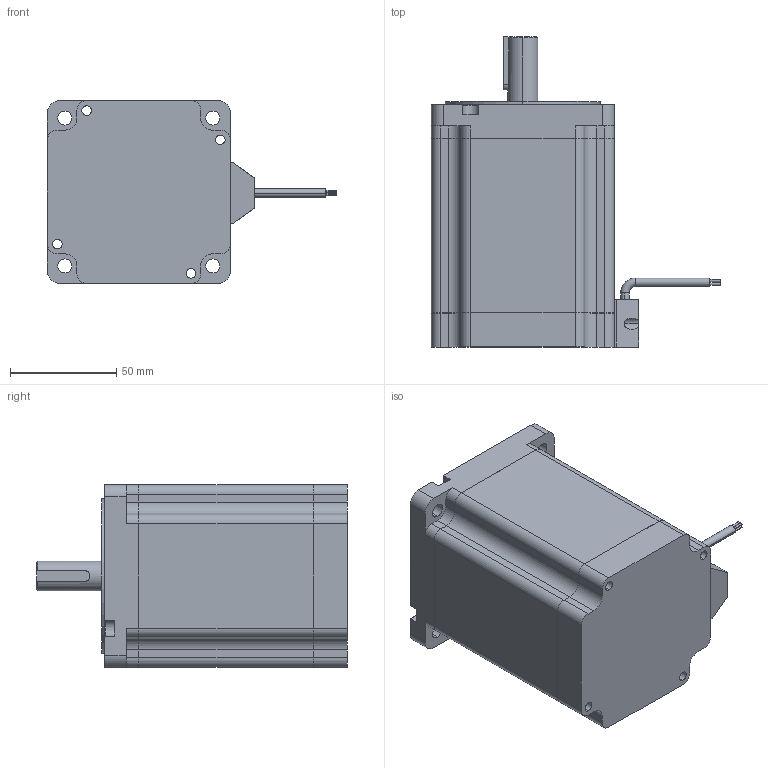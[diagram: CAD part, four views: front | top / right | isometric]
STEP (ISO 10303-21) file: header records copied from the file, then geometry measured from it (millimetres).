
FILE_DESCRIPTION (( 'STEP AP214' ), '1' );
FILE_NAME ('86HS2114-8004-XXX.STEP', '2024-04-18T04:53:58', ( 'MM' ), ( 'Microsoft' ), 'SwSTEP 2.0', 'SolidWorks 2024', '' );
FILE_SCHEMA (( 'AUTOMOTIVE_DESIGN' ));
Length unit declared in the file: millimetre
Products named in the file (1): 86HS2114-8004-XXX
Bounding box: 136 x 146 x 86 mm (x, y, z)
Volume: 769677.6 mm3; surface area: 67722.6 mm2
Topology: 2 solids, 2 shells, 217 faces, 582 edges, 381 vertices
Faces by surface type: cylinder 109, plane 90, torus 10, cone 8
Entity records: 6989 total; most frequent: DIRECTION 1257, CARTESIAN_POINT 1230, ORIENTED_EDGE 1164, EDGE_CURVE 582, AXIS2_PLACEMENT_3D 464, VERTEX_POINT 381, VECTOR 329, LINE 329
